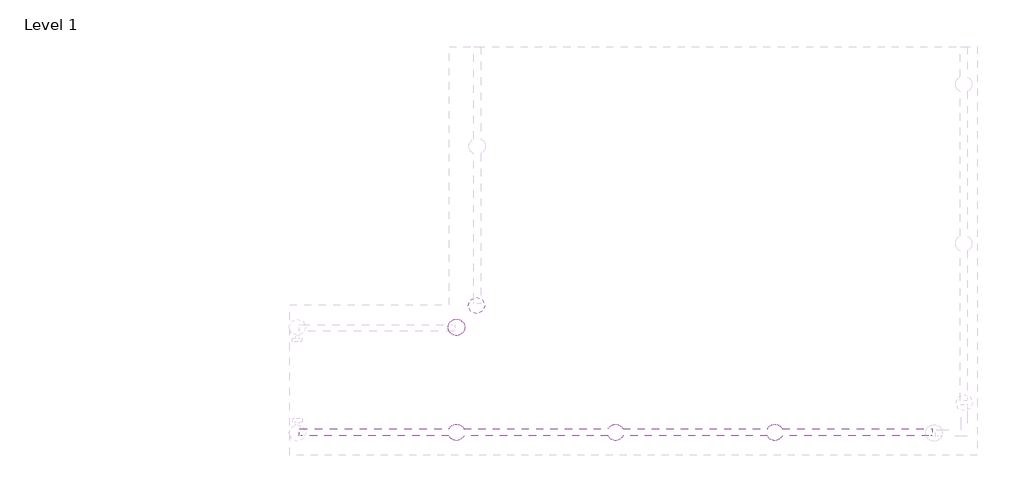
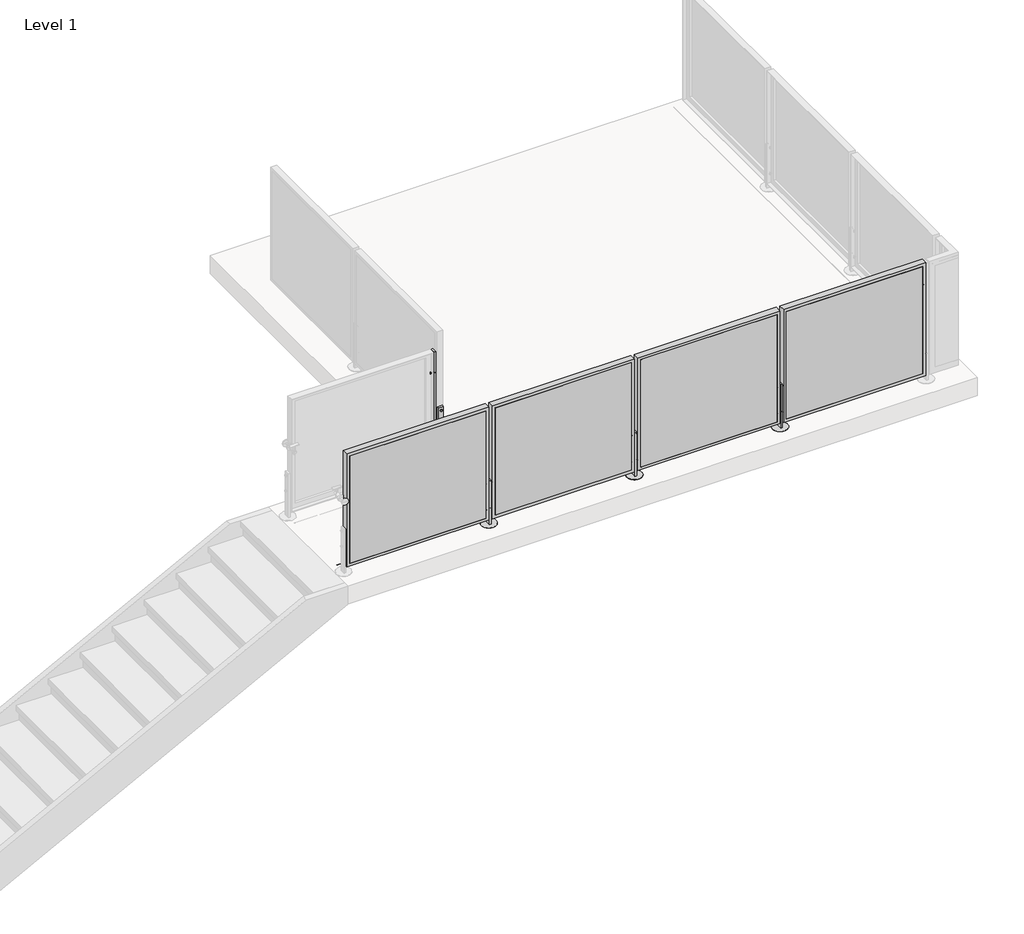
# One storey, part 31 of 37: 2 proxies, 1 railing.
"""IFC4 building model written with IfcOpenShell, lengths in millimetres."""

from ifc_helpers import new_model, si_unit, point, frame, frame_2d, origin, place, context, project, spatial, polyline, circle_curve, trimmed, segment, composite_curve, outline, extrude, faceted_brep, transform, mapped, element, save
from ifc_brep_helpers import plane_surface, cylinder_surface, advanced_brep
from components import baluster_end_post_viva_frame_top_mount_933f940f, baluster_end_post_viva_frame_top_mount_933cdb12

model = new_model("IFC4")

# Units and contexts
model_context = context("Model", 3, world=origin())
ifc_project = project(units=[si_unit("LENGTHUNIT", "METRE", prefix="MILLI")], contexts=[model_context])

# Site, building, storey
site = spatial("IfcSite", under=ifc_project)
building = spatial("IfcBuilding", under=site)
storey = spatial("IfcBuildingStorey", under=building, Name="Level 1", Elevation=0.0)

# Proxies
placement = place(None, origin())
baluster_end_post_viva_frame_top_mount_shape = baluster_end_post_viva_frame_top_mount_933f940f(model_context)
element("IfcBuildingElementProxy", 1, Name="Baluster-End-Post-VIVA-FRAME-Top Mount : CORED INTO CONCRETE_TOP MOUNT FOLD_STRAIGHT", ObjectType="Baluster-End-Post-VIVA-FRAME-Top Mount : CORED INTO CONCRETE_TOP MOUNT FOLD_STRAIGHT", at=placement, inside=storey, context=model_context, shape_type="MappedRepresentation", body=[
    mapped(baluster_end_post_viva_frame_top_mount_shape, transform((-31485.7754694, 9521.3663722, 3047.492), x_axis=(0.0, -1.0, 0.0), y_axis=(1.0, 0.0, 0.0), z_axis=(0.0, 0.0, 1.0))),
])
baluster_end_post_viva_frame_top_mount_2_shape = baluster_end_post_viva_frame_top_mount_933cdb12(model_context)
element("IfcBuildingElementProxy", 2, Name="Baluster-End-Post-VIVA-FRAME-Top Mount : CORED INTO CONCRETE_TOP MOUNT FOLD_STRAIGHT", ObjectType="Baluster-End-Post-VIVA-FRAME-Top Mount : CORED INTO CONCRETE_TOP MOUNT FOLD_STRAIGHT", at=placement, inside=storey, context=model_context, shape_type="MappedRepresentation", body=[
    mapped(baluster_end_post_viva_frame_top_mount_2_shape, transform((-31746.8813244, 9246.7937722, 3047.492), x_axis=(-1.0, 0.0, 0.0), y_axis=(0.0, -1.0, 0.0), z_axis=(0.0, 0.0, 1.0))),
])

# Railing
element("IfcRailing", 3, ObjectType="Metal-Panel-VIVA-FRAME-Top_Core-Straight", at=placement, inside=storey, context=model_context, shape_type="SolidModel", body=[
    extrude(outline(composite_curve([segment(trimmed(circle_curve(frame_2d((8605.5937722, 3047.746)), 0.254), [point((8605.3397722, 3047.746))], [point((8605.8477722, 3047.746))], False, "CARTESIAN"), True, "CONTINUOUS"), segment(trimmed(circle_curve(frame_2d((8605.5937722, 3047.746)), 0.254), [point((8605.8477722, 3047.746))], [point((8605.3397722, 3047.746))], False, "CARTESIAN"), True, "CONTINUOUS")], self_intersect=False)), frame((-33016.8813244, 0.0, 0.0), z_axis=(1.0, 0.0, 0.0), x_axis=(0.0, 1.0, 0.0)), (0.0, 0.0, 1.0), 5080.0),
    extrude(outline(composite_curve([segment(trimmed(circle_curve(frame_2d((8605.5937722, 3047.746)), 0.254), [point((8605.3397722, 3047.746))], [point((8605.8477722, 3047.746))], False, "CARTESIAN"), True, "CONTINUOUS"), segment(trimmed(circle_curve(frame_2d((8605.5937722, 3047.746)), 0.254), [point((8605.8477722, 3047.746))], [point((8605.3397722, 3047.746))], False, "CARTESIAN"), True, "CONTINUOUS")], self_intersect=False)), frame((-33016.8813244, 0.0, 0.0), z_axis=(1.0, 0.0, 0.0), x_axis=(0.0, 1.0, 0.0)), (0.0, 0.0, 1.0), 5080.0),
    extrude(outline(polyline([(-29166.0548675, 8482.7833722), (-29166.0548675, 8485.7833722), (-27977.7077814, 8485.7833722), (-27977.7077814, 8482.7833722), (-29166.0548675, 8482.7833722)])), frame((0.0, 0.0, 3124.1959569), z_axis=(0.0, 0.0, 1.0), x_axis=(1.0, 0.0, 0.0)), (0.0, 0.0, 1.0), 990.5826861),
    faceted_brep([(-29191.4548675, 8482.7833722, 4140.1786431), (-29191.4548675, 8482.7833722, 3098.7959569), (-27952.3077814, 8482.7833722, 3098.7959569), (-27952.3077814, 8482.7833722, 4140.1786431), (-29166.0548675, 8482.7833722, 4114.7786431), (-27977.7077814, 8482.7833722, 4114.7786431), (-27977.7077814, 8482.7833722, 3124.1959569), (-29166.0548675, 8482.7833722, 3124.1959569), (-27977.7077814, 8485.7833722, 3124.1959569), (-29166.0548675, 8485.7833722, 3124.1959569), (-27977.7077814, 8485.7833722, 4114.7786431), (-29166.0548675, 8485.7833722, 4114.7786431), (-29185.4604675, 8536.5833722, 3104.7903569), (-29185.4604675, 8505.7731722, 3104.7903569), (-27958.3021814, 8505.7731722, 3104.7903569), (-27958.3021814, 8536.5833722, 3104.7903569), (-27958.3021814, 8505.7731722, 4134.1842431), (-27958.3021814, 8536.5833722, 4134.1842431), (-29185.4604675, 8536.5833722, 4134.1842431), (-29185.4604675, 8505.7731722, 4134.1842431), (-27952.3077814, 8536.5833722, 3098.7959569), (-29191.4548675, 8536.5833722, 3098.7959569), (-29191.4548675, 8536.5833722, 4140.1786431), (-27952.3077814, 8536.5833722, 4140.1786431), (-29140.6548675, 8485.7833722, 4089.3786431), (-28003.1077814, 8485.7833722, 4089.3786431), (-28003.1077814, 8485.7833722, 3149.5959569), (-29140.6548675, 8485.7833722, 3149.5959569), (-28003.1077814, 8505.7731722, 3149.5959569), (-28003.1077814, 8505.7731722, 4089.3786431), (-29140.6548675, 8505.7731722, 4089.3786431), (-29140.6548675, 8505.7731722, 3149.5959569)], [[[0, 1, 2, 3], [4, 5, 6, 7]], [[7, 6, 8, 9]], [[6, 5, 10, 8]], [[5, 4, 11, 10]], [[4, 7, 9, 11]], [[12, 13, 14, 15]], [[15, 14, 16, 17]], [[13, 12, 18, 19]], [[20, 21, 22, 23], [12, 15, 17, 18]], [[21, 1, 0, 22]], [[21, 20, 2, 1]], [[2, 20, 23, 3]], [[22, 0, 3, 23]], [[11, 9, 8, 10], [24, 25, 26, 27]], [[14, 13, 19, 16], [28, 29, 30, 31]], [[19, 18, 17, 16]], [[25, 24, 30, 29]], [[26, 25, 29, 28]], [[27, 26, 28, 31]], [[24, 27, 31, 30]]]),
    extrude(outline(composite_curve([segment(trimmed(circle_curve(frame_2d((-29206.8813244, 8509.6833722)), 65.8876), [point((-29206.8813244, 8443.7957722))], [point((-29206.8813244, 8575.5709722))], False, "CARTESIAN"), True, "CONTINUOUS"), segment(trimmed(circle_curve(frame_2d((-29206.8813244, 8509.6833722)), 65.8876), [point((-29206.8813244, 8575.5709722))], [point((-29206.8813244, 8443.7957722))], False, "CARTESIAN"), True, "CONTINUOUS")], self_intersect=False)), frame((0.0, 0.0, 3048.0), z_axis=(0.0, 0.0, 1.0), x_axis=(1.0, 0.0, 0.0)), (0.0, 0.0, 1.0), 2.9821299),
    advanced_brep(
    [(-29233.0687244, 8509.6833722, 3178.1496), (-29233.0687244, 8509.6833722, 3197.2504), (-29233.0687244, 8509.6833722, 3187.7), (-29228.2935244, 8509.6833722, 3178.1496), (-29228.2935244, 8509.6833722, 3197.2504), (-29228.2935244, 8509.6833722, 3182.9248), (-29228.2935244, 8509.6833722, 3192.4752), (-29185.4691244, 8509.6833722, 3182.9248), (-29185.4691244, 8509.6833722, 3192.4752), (-29185.4691244, 8509.6833722, 3178.1496), (-29185.4691244, 8509.6833722, 3197.2504), (-29180.6939244, 8509.6833722, 3178.1496), (-29180.6939244, 8509.6833722, 3197.2504), (-29180.6939244, 8509.6833722, 3187.7)],
    [
        (0, 1, circle_curve(frame((-29233.0687244, 8509.6833722, 3187.7), z_axis=(-1.0, 0.0, 0.0), x_axis=(0.0, 0.0, 1.0)), 9.5504)),
        (1, 2),
        (2, 0),
        (1, 0, circle_curve(frame((-29233.0687244, 8509.6833722, 3187.7), z_axis=(-1.0, 0.0, 0.0), x_axis=(0.0, 0.0, 1.0)), 9.5504)),
        (3, 4, circle_curve(frame((-29228.2935244, 8509.6833722, 3187.7), z_axis=(-1.0, 0.0, 0.0), x_axis=(0.0, 0.0, 1.0)), 9.5504)),
        (4, 1),
        (0, 3),
        (4, 3, circle_curve(frame((-29228.2935244, 8509.6833722, 3187.7), z_axis=(-1.0, 0.0, 0.0), x_axis=(0.0, 0.0, 1.0)), 9.5504)),
        (5, 6, circle_curve(frame((-29228.2935244, 8509.6833722, 3187.7), z_axis=(-1.0, 0.0, 0.0), x_axis=(0.0, 0.0, 1.0)), 4.7752)),
        (6, 4),
        (3, 5),
        (6, 5, circle_curve(frame((-29228.2935244, 8509.6833722, 3187.7), z_axis=(-1.0, 0.0, 0.0), x_axis=(0.0, 0.0, 1.0)), 4.7752)),
        (7, 8, circle_curve(frame((-29185.4691244, 8509.6833722, 3187.7), z_axis=(-1.0, 0.0, 0.0), x_axis=(0.0, 0.0, 1.0)), 4.7752)),
        (8, 6),
        (5, 7),
        (8, 7, circle_curve(frame((-29185.4691244, 8509.6833722, 3187.7), z_axis=(-1.0, 0.0, 0.0), x_axis=(0.0, 0.0, 1.0)), 4.7752)),
        (9, 10, circle_curve(frame((-29185.4691244, 8509.6833722, 3187.7), z_axis=(-1.0, 0.0, 0.0), x_axis=(0.0, 0.0, 1.0)), 9.5504)),
        (10, 8),
        (7, 9),
        (10, 9, circle_curve(frame((-29185.4691244, 8509.6833722, 3187.7), z_axis=(-1.0, 0.0, 0.0), x_axis=(0.0, 0.0, 1.0)), 9.5504)),
        (11, 12, circle_curve(frame((-29180.6939244, 8509.6833722, 3187.7), z_axis=(-1.0, 0.0, 0.0), x_axis=(0.0, 0.0, 1.0)), 9.5504)),
        (12, 10),
        (9, 11),
        (12, 11, circle_curve(frame((-29180.6939244, 8509.6833722, 3187.7), z_axis=(-1.0, 0.0, 0.0), x_axis=(0.0, 0.0, 1.0)), 9.5504)),
        (13, 12),
        (11, 13),
    ],
    [
        plane_surface(frame((-29233.0687244, 8509.6833722, 3187.7), z_axis=(-1.0, 0.0, 0.0), x_axis=(0.0, 0.0, 1.0))),
        cylinder_surface(frame((-32624.6490816, 8509.6833722, 3187.7), z_axis=(1.0, 0.0, 0.0), x_axis=(0.0, 0.0, 1.0)), 9.5504),
        plane_surface(frame((-29228.2935244, 8509.6833722, 3187.7), z_axis=(1.0, 0.0, 0.0), x_axis=(0.0, 0.0, 1.0))),
        cylinder_surface(frame((-32624.6490816, 8509.6833722, 3187.7), z_axis=(1.0, 0.0, 0.0), x_axis=(0.0, 0.0, 1.0)), 4.7752),
        plane_surface(frame((-29185.4691244, 8509.6833722, 3187.7), z_axis=(-1.0, 0.0, 0.0), x_axis=(0.0, 0.0, 1.0))),
        plane_surface(frame((-29180.6939244, 8509.6833722, 3187.7), z_axis=(1.0, 0.0, 0.0), x_axis=(0.0, 0.0, 1.0))),
    ],
    [
        (0, [[1, 2, 3]]),
        (0, [[4, -3, -2]]),
        (1, [[5, 6, -1, 7]]),
        (1, [[8, -7, -4, -6]]),
        (2, [[9, 10, -5, 11]]),
        (2, [[12, -11, -8, -10]]),
        (3, [[13, 14, -9, 15]]),
        (3, [[16, -15, -12, -14]]),
        (4, [[17, 18, -13, 19]]),
        (4, [[20, -19, -16, -18]]),
        (1, [[21, 22, -17, 23]]),
        (1, [[24, -23, -20, -22]]),
        (5, [[25, -21, 26]]),
        (5, [[-26, -24, -25]]),
    ],
),
    advanced_brep(
    [(-29233.0687244, 8509.6833722, 3419.4496), (-29233.0687244, 8509.6833722, 3438.5504), (-29233.0687244, 8509.6833722, 3429.0), (-29228.2935244, 8509.6833722, 3419.4496), (-29228.2935244, 8509.6833722, 3438.5504), (-29228.2935244, 8509.6833722, 3424.2248), (-29228.2935244, 8509.6833722, 3433.7752), (-29185.4691244, 8509.6833722, 3424.2248), (-29185.4691244, 8509.6833722, 3433.7752), (-29185.4691244, 8509.6833722, 3419.4496), (-29185.4691244, 8509.6833722, 3438.5504), (-29180.6939244, 8509.6833722, 3419.4496), (-29180.6939244, 8509.6833722, 3438.5504), (-29180.6939244, 8509.6833722, 3429.0)],
    [
        (0, 1, circle_curve(frame((-29233.0687244, 8509.6833722, 3429.0), z_axis=(-1.0, 0.0, 0.0), x_axis=(0.0, 0.0, 1.0)), 9.5504)),
        (1, 2),
        (2, 0),
        (1, 0, circle_curve(frame((-29233.0687244, 8509.6833722, 3429.0), z_axis=(-1.0, 0.0, 0.0), x_axis=(0.0, 0.0, 1.0)), 9.5504)),
        (3, 4, circle_curve(frame((-29228.2935244, 8509.6833722, 3429.0), z_axis=(-1.0, 0.0, 0.0), x_axis=(0.0, 0.0, 1.0)), 9.5504)),
        (4, 1),
        (0, 3),
        (4, 3, circle_curve(frame((-29228.2935244, 8509.6833722, 3429.0), z_axis=(-1.0, 0.0, 0.0), x_axis=(0.0, 0.0, 1.0)), 9.5504)),
        (5, 6, circle_curve(frame((-29228.2935244, 8509.6833722, 3429.0), z_axis=(-1.0, 0.0, 0.0), x_axis=(0.0, 0.0, 1.0)), 4.7752)),
        (6, 4),
        (3, 5),
        (6, 5, circle_curve(frame((-29228.2935244, 8509.6833722, 3429.0), z_axis=(-1.0, 0.0, 0.0), x_axis=(0.0, 0.0, 1.0)), 4.7752)),
        (7, 8, circle_curve(frame((-29185.4691244, 8509.6833722, 3429.0), z_axis=(-1.0, 0.0, 0.0), x_axis=(0.0, 0.0, 1.0)), 4.7752)),
        (8, 6),
        (5, 7),
        (8, 7, circle_curve(frame((-29185.4691244, 8509.6833722, 3429.0), z_axis=(-1.0, 0.0, 0.0), x_axis=(0.0, 0.0, 1.0)), 4.7752)),
        (9, 10, circle_curve(frame((-29185.4691244, 8509.6833722, 3429.0), z_axis=(-1.0, 0.0, 0.0), x_axis=(0.0, 0.0, 1.0)), 9.5504)),
        (10, 8),
        (7, 9),
        (10, 9, circle_curve(frame((-29185.4691244, 8509.6833722, 3429.0), z_axis=(-1.0, 0.0, 0.0), x_axis=(0.0, 0.0, 1.0)), 9.5504)),
        (11, 12, circle_curve(frame((-29180.6939244, 8509.6833722, 3429.0), z_axis=(-1.0, 0.0, 0.0), x_axis=(0.0, 0.0, 1.0)), 9.5504)),
        (12, 10),
        (9, 11),
        (12, 11, circle_curve(frame((-29180.6939244, 8509.6833722, 3429.0), z_axis=(-1.0, 0.0, 0.0), x_axis=(0.0, 0.0, 1.0)), 9.5504)),
        (13, 12),
        (11, 13),
    ],
    [
        plane_surface(frame((-29233.0687244, 8509.6833722, 3429.0), z_axis=(-1.0, 0.0, 0.0), x_axis=(0.0, 0.0, 1.0))),
        cylinder_surface(frame((-32624.6490816, 8509.6833722, 3429.0), z_axis=(1.0, 0.0, 0.0), x_axis=(0.0, 0.0, 1.0)), 9.5504),
        plane_surface(frame((-29228.2935244, 8509.6833722, 3429.0), z_axis=(1.0, 0.0, 0.0), x_axis=(0.0, 0.0, 1.0))),
        cylinder_surface(frame((-32624.6490816, 8509.6833722, 3429.0), z_axis=(1.0, 0.0, 0.0), x_axis=(0.0, 0.0, 1.0)), 4.7752),
        plane_surface(frame((-29185.4691244, 8509.6833722, 3429.0), z_axis=(-1.0, 0.0, 0.0), x_axis=(0.0, 0.0, 1.0))),
        plane_surface(frame((-29180.6939244, 8509.6833722, 3429.0), z_axis=(1.0, 0.0, 0.0), x_axis=(0.0, 0.0, 1.0))),
    ],
    [
        (0, [[1, 2, 3]]),
        (0, [[4, -3, -2]]),
        (1, [[5, 6, -1, 7]]),
        (1, [[8, -7, -4, -6]]),
        (2, [[9, 10, -5, 11]]),
        (2, [[12, -11, -8, -10]]),
        (3, [[13, 14, -9, 15]]),
        (3, [[16, -15, -12, -14]]),
        (4, [[17, 18, -13, 19]]),
        (4, [[20, -19, -16, -18]]),
        (1, [[21, 22, -17, 23]]),
        (1, [[24, -23, -20, -22]]),
        (5, [[25, -21, 26]]),
        (5, [[-26, -24, -25]]),
    ],
),
    extrude(outline(polyline([(-29214.8209161, 8531.9083722), (-29198.9417328, 8531.9083722), (-29198.9417328, 8487.4583722), (-29214.8209161, 8487.4583722), (-29214.8209161, 8531.9083722)])), frame((0.0, 0.0, 2946.4), z_axis=(0.0, 0.0, 1.0), x_axis=(1.0, 0.0, 0.0)), (0.0, 0.0, 1.0), 508.0),
    extrude(outline(polyline([(-30436.0548675, 8482.7833722), (-30436.0548675, 8485.7833722), (-29247.7077814, 8485.7833722), (-29247.7077814, 8482.7833722), (-30436.0548675, 8482.7833722)])), frame((0.0, 0.0, 3124.1959569), z_axis=(0.0, 0.0, 1.0), x_axis=(1.0, 0.0, 0.0)), (0.0, 0.0, 1.0), 990.5826861),
    faceted_brep([(-30461.4548675, 8482.7833722, 4140.1786431), (-30461.4548675, 8482.7833722, 3098.7959569), (-29222.3077814, 8482.7833722, 3098.7959569), (-29222.3077814, 8482.7833722, 4140.1786431), (-30436.0548675, 8482.7833722, 4114.7786431), (-29247.7077814, 8482.7833722, 4114.7786431), (-29247.7077814, 8482.7833722, 3124.1959569), (-30436.0548675, 8482.7833722, 3124.1959569), (-29247.7077814, 8485.7833722, 3124.1959569), (-30436.0548675, 8485.7833722, 3124.1959569), (-29247.7077814, 8485.7833722, 4114.7786431), (-30436.0548675, 8485.7833722, 4114.7786431), (-30455.4604675, 8536.5833722, 3104.7903569), (-30455.4604675, 8505.7731722, 3104.7903569), (-29228.3021814, 8505.7731722, 3104.7903569), (-29228.3021814, 8536.5833722, 3104.7903569), (-29228.3021814, 8505.7731722, 4134.1842431), (-29228.3021814, 8536.5833722, 4134.1842431), (-30455.4604675, 8536.5833722, 4134.1842431), (-30455.4604675, 8505.7731722, 4134.1842431), (-29222.3077814, 8536.5833722, 3098.7959569), (-30461.4548675, 8536.5833722, 3098.7959569), (-30461.4548675, 8536.5833722, 4140.1786431), (-29222.3077814, 8536.5833722, 4140.1786431), (-30410.6548675, 8485.7833722, 4089.3786431), (-29273.1077814, 8485.7833722, 4089.3786431), (-29273.1077814, 8485.7833722, 3149.5959569), (-30410.6548675, 8485.7833722, 3149.5959569), (-29273.1077814, 8505.7731722, 3149.5959569), (-29273.1077814, 8505.7731722, 4089.3786431), (-30410.6548675, 8505.7731722, 4089.3786431), (-30410.6548675, 8505.7731722, 3149.5959569)], [[[0, 1, 2, 3], [4, 5, 6, 7]], [[7, 6, 8, 9]], [[6, 5, 10, 8]], [[5, 4, 11, 10]], [[4, 7, 9, 11]], [[12, 13, 14, 15]], [[15, 14, 16, 17]], [[13, 12, 18, 19]], [[20, 21, 22, 23], [12, 15, 17, 18]], [[21, 1, 0, 22]], [[21, 20, 2, 1]], [[2, 20, 23, 3]], [[22, 0, 3, 23]], [[11, 9, 8, 10], [24, 25, 26, 27]], [[14, 13, 19, 16], [28, 29, 30, 31]], [[19, 18, 17, 16]], [[25, 24, 30, 29]], [[26, 25, 29, 28]], [[27, 26, 28, 31]], [[24, 27, 31, 30]]]),
    extrude(outline(composite_curve([segment(trimmed(circle_curve(frame_2d((-30476.8813244, 8509.6833722)), 65.8876), [point((-30476.8813244, 8443.7957722))], [point((-30476.8813244, 8575.5709722))], False, "CARTESIAN"), True, "CONTINUOUS"), segment(trimmed(circle_curve(frame_2d((-30476.8813244, 8509.6833722)), 65.8876), [point((-30476.8813244, 8575.5709722))], [point((-30476.8813244, 8443.7957722))], False, "CARTESIAN"), True, "CONTINUOUS")], self_intersect=False)), frame((0.0, 0.0, 3048.0), z_axis=(0.0, 0.0, 1.0), x_axis=(1.0, 0.0, 0.0)), (0.0, 0.0, 1.0), 2.9821299),
    advanced_brep(
    [(-30503.0687244, 8509.6833722, 3178.1496), (-30503.0687244, 8509.6833722, 3197.2504), (-30503.0687244, 8509.6833722, 3187.7), (-30498.2935244, 8509.6833722, 3178.1496), (-30498.2935244, 8509.6833722, 3197.2504), (-30498.2935244, 8509.6833722, 3182.9248), (-30498.2935244, 8509.6833722, 3192.4752), (-30455.4691244, 8509.6833722, 3182.9248), (-30455.4691244, 8509.6833722, 3192.4752), (-30455.4691244, 8509.6833722, 3178.1496), (-30455.4691244, 8509.6833722, 3197.2504), (-30450.6939244, 8509.6833722, 3178.1496), (-30450.6939244, 8509.6833722, 3197.2504), (-30450.6939244, 8509.6833722, 3187.7)],
    [
        (0, 1, circle_curve(frame((-30503.0687244, 8509.6833722, 3187.7), z_axis=(-1.0, 0.0, 0.0), x_axis=(0.0, 0.0, 1.0)), 9.5504)),
        (1, 2),
        (2, 0),
        (1, 0, circle_curve(frame((-30503.0687244, 8509.6833722, 3187.7), z_axis=(-1.0, 0.0, 0.0), x_axis=(0.0, 0.0, 1.0)), 9.5504)),
        (3, 4, circle_curve(frame((-30498.2935244, 8509.6833722, 3187.7), z_axis=(-1.0, 0.0, 0.0), x_axis=(0.0, 0.0, 1.0)), 9.5504)),
        (4, 1),
        (0, 3),
        (4, 3, circle_curve(frame((-30498.2935244, 8509.6833722, 3187.7), z_axis=(-1.0, 0.0, 0.0), x_axis=(0.0, 0.0, 1.0)), 9.5504)),
        (5, 6, circle_curve(frame((-30498.2935244, 8509.6833722, 3187.7), z_axis=(-1.0, 0.0, 0.0), x_axis=(0.0, 0.0, 1.0)), 4.7752)),
        (6, 4),
        (3, 5),
        (6, 5, circle_curve(frame((-30498.2935244, 8509.6833722, 3187.7), z_axis=(-1.0, 0.0, 0.0), x_axis=(0.0, 0.0, 1.0)), 4.7752)),
        (7, 8, circle_curve(frame((-30455.4691244, 8509.6833722, 3187.7), z_axis=(-1.0, 0.0, 0.0), x_axis=(0.0, 0.0, 1.0)), 4.7752)),
        (8, 6),
        (5, 7),
        (8, 7, circle_curve(frame((-30455.4691244, 8509.6833722, 3187.7), z_axis=(-1.0, 0.0, 0.0), x_axis=(0.0, 0.0, 1.0)), 4.7752)),
        (9, 10, circle_curve(frame((-30455.4691244, 8509.6833722, 3187.7), z_axis=(-1.0, 0.0, 0.0), x_axis=(0.0, 0.0, 1.0)), 9.5504)),
        (10, 8),
        (7, 9),
        (10, 9, circle_curve(frame((-30455.4691244, 8509.6833722, 3187.7), z_axis=(-1.0, 0.0, 0.0), x_axis=(0.0, 0.0, 1.0)), 9.5504)),
        (11, 12, circle_curve(frame((-30450.6939244, 8509.6833722, 3187.7), z_axis=(-1.0, 0.0, 0.0), x_axis=(0.0, 0.0, 1.0)), 9.5504)),
        (12, 10),
        (9, 11),
        (12, 11, circle_curve(frame((-30450.6939244, 8509.6833722, 3187.7), z_axis=(-1.0, 0.0, 0.0), x_axis=(0.0, 0.0, 1.0)), 9.5504)),
        (13, 12),
        (11, 13),
    ],
    [
        plane_surface(frame((-30503.0687244, 8509.6833722, 3187.7), z_axis=(-1.0, 0.0, 0.0), x_axis=(0.0, 0.0, 1.0))),
        cylinder_surface(frame((-33894.6490816, 8509.6833722, 3187.7), z_axis=(1.0, 0.0, 0.0), x_axis=(0.0, 0.0, 1.0)), 9.5504),
        plane_surface(frame((-30498.2935244, 8509.6833722, 3187.7), z_axis=(1.0, 0.0, 0.0), x_axis=(0.0, 0.0, 1.0))),
        cylinder_surface(frame((-33894.6490816, 8509.6833722, 3187.7), z_axis=(1.0, 0.0, 0.0), x_axis=(0.0, 0.0, 1.0)), 4.7752),
        plane_surface(frame((-30455.4691244, 8509.6833722, 3187.7), z_axis=(-1.0, 0.0, 0.0), x_axis=(0.0, 0.0, 1.0))),
        plane_surface(frame((-30450.6939244, 8509.6833722, 3187.7), z_axis=(1.0, 0.0, 0.0), x_axis=(0.0, 0.0, 1.0))),
    ],
    [
        (0, [[1, 2, 3]]),
        (0, [[4, -3, -2]]),
        (1, [[5, 6, -1, 7]]),
        (1, [[8, -7, -4, -6]]),
        (2, [[9, 10, -5, 11]]),
        (2, [[12, -11, -8, -10]]),
        (3, [[13, 14, -9, 15]]),
        (3, [[16, -15, -12, -14]]),
        (4, [[17, 18, -13, 19]]),
        (4, [[20, -19, -16, -18]]),
        (1, [[21, 22, -17, 23]]),
        (1, [[24, -23, -20, -22]]),
        (5, [[25, -21, 26]]),
        (5, [[-26, -24, -25]]),
    ],
),
    advanced_brep(
    [(-30503.0687244, 8509.6833722, 3419.4496), (-30503.0687244, 8509.6833722, 3438.5504), (-30503.0687244, 8509.6833722, 3429.0), (-30498.2935244, 8509.6833722, 3419.4496), (-30498.2935244, 8509.6833722, 3438.5504), (-30498.2935244, 8509.6833722, 3424.2248), (-30498.2935244, 8509.6833722, 3433.7752), (-30455.4691244, 8509.6833722, 3424.2248), (-30455.4691244, 8509.6833722, 3433.7752), (-30455.4691244, 8509.6833722, 3419.4496), (-30455.4691244, 8509.6833722, 3438.5504), (-30450.6939244, 8509.6833722, 3419.4496), (-30450.6939244, 8509.6833722, 3438.5504), (-30450.6939244, 8509.6833722, 3429.0)],
    [
        (0, 1, circle_curve(frame((-30503.0687244, 8509.6833722, 3429.0), z_axis=(-1.0, 0.0, 0.0), x_axis=(0.0, 0.0, 1.0)), 9.5504)),
        (1, 2),
        (2, 0),
        (1, 0, circle_curve(frame((-30503.0687244, 8509.6833722, 3429.0), z_axis=(-1.0, 0.0, 0.0), x_axis=(0.0, 0.0, 1.0)), 9.5504)),
        (3, 4, circle_curve(frame((-30498.2935244, 8509.6833722, 3429.0), z_axis=(-1.0, 0.0, 0.0), x_axis=(0.0, 0.0, 1.0)), 9.5504)),
        (4, 1),
        (0, 3),
        (4, 3, circle_curve(frame((-30498.2935244, 8509.6833722, 3429.0), z_axis=(-1.0, 0.0, 0.0), x_axis=(0.0, 0.0, 1.0)), 9.5504)),
        (5, 6, circle_curve(frame((-30498.2935244, 8509.6833722, 3429.0), z_axis=(-1.0, 0.0, 0.0), x_axis=(0.0, 0.0, 1.0)), 4.7752)),
        (6, 4),
        (3, 5),
        (6, 5, circle_curve(frame((-30498.2935244, 8509.6833722, 3429.0), z_axis=(-1.0, 0.0, 0.0), x_axis=(0.0, 0.0, 1.0)), 4.7752)),
        (7, 8, circle_curve(frame((-30455.4691244, 8509.6833722, 3429.0), z_axis=(-1.0, 0.0, 0.0), x_axis=(0.0, 0.0, 1.0)), 4.7752)),
        (8, 6),
        (5, 7),
        (8, 7, circle_curve(frame((-30455.4691244, 8509.6833722, 3429.0), z_axis=(-1.0, 0.0, 0.0), x_axis=(0.0, 0.0, 1.0)), 4.7752)),
        (9, 10, circle_curve(frame((-30455.4691244, 8509.6833722, 3429.0), z_axis=(-1.0, 0.0, 0.0), x_axis=(0.0, 0.0, 1.0)), 9.5504)),
        (10, 8),
        (7, 9),
        (10, 9, circle_curve(frame((-30455.4691244, 8509.6833722, 3429.0), z_axis=(-1.0, 0.0, 0.0), x_axis=(0.0, 0.0, 1.0)), 9.5504)),
        (11, 12, circle_curve(frame((-30450.6939244, 8509.6833722, 3429.0), z_axis=(-1.0, 0.0, 0.0), x_axis=(0.0, 0.0, 1.0)), 9.5504)),
        (12, 10),
        (9, 11),
        (12, 11, circle_curve(frame((-30450.6939244, 8509.6833722, 3429.0), z_axis=(-1.0, 0.0, 0.0), x_axis=(0.0, 0.0, 1.0)), 9.5504)),
        (13, 12),
        (11, 13),
    ],
    [
        plane_surface(frame((-30503.0687244, 8509.6833722, 3429.0), z_axis=(-1.0, 0.0, 0.0), x_axis=(0.0, 0.0, 1.0))),
        cylinder_surface(frame((-33894.6490816, 8509.6833722, 3429.0), z_axis=(1.0, 0.0, 0.0), x_axis=(0.0, 0.0, 1.0)), 9.5504),
        plane_surface(frame((-30498.2935244, 8509.6833722, 3429.0), z_axis=(1.0, 0.0, 0.0), x_axis=(0.0, 0.0, 1.0))),
        cylinder_surface(frame((-33894.6490816, 8509.6833722, 3429.0), z_axis=(1.0, 0.0, 0.0), x_axis=(0.0, 0.0, 1.0)), 4.7752),
        plane_surface(frame((-30455.4691244, 8509.6833722, 3429.0), z_axis=(-1.0, 0.0, 0.0), x_axis=(0.0, 0.0, 1.0))),
        plane_surface(frame((-30450.6939244, 8509.6833722, 3429.0), z_axis=(1.0, 0.0, 0.0), x_axis=(0.0, 0.0, 1.0))),
    ],
    [
        (0, [[1, 2, 3]]),
        (0, [[4, -3, -2]]),
        (1, [[5, 6, -1, 7]]),
        (1, [[8, -7, -4, -6]]),
        (2, [[9, 10, -5, 11]]),
        (2, [[12, -11, -8, -10]]),
        (3, [[13, 14, -9, 15]]),
        (3, [[16, -15, -12, -14]]),
        (4, [[17, 18, -13, 19]]),
        (4, [[20, -19, -16, -18]]),
        (1, [[21, 22, -17, 23]]),
        (1, [[24, -23, -20, -22]]),
        (5, [[25, -21, 26]]),
        (5, [[-26, -24, -25]]),
    ],
),
    extrude(outline(polyline([(-30484.8209161, 8531.9083722), (-30468.9417328, 8531.9083722), (-30468.9417328, 8487.4583722), (-30484.8209161, 8487.4583722), (-30484.8209161, 8531.9083722)])), frame((0.0, 0.0, 2946.4), z_axis=(0.0, 0.0, 1.0), x_axis=(1.0, 0.0, 0.0)), (0.0, 0.0, 1.0), 508.0),
    extrude(outline(polyline([(-31706.0548675, 8482.7833722), (-31706.0548675, 8485.7833722), (-30517.7077814, 8485.7833722), (-30517.7077814, 8482.7833722), (-31706.0548675, 8482.7833722)])), frame((0.0, 0.0, 3124.1959569), z_axis=(0.0, 0.0, 1.0), x_axis=(1.0, 0.0, 0.0)), (0.0, 0.0, 1.0), 990.5826861),
    faceted_brep([(-31731.4548675, 8482.7833722, 4140.1786431), (-31731.4548675, 8482.7833722, 3098.7959569), (-30492.3077814, 8482.7833722, 3098.7959569), (-30492.3077814, 8482.7833722, 4140.1786431), (-31706.0548675, 8482.7833722, 4114.7786431), (-30517.7077814, 8482.7833722, 4114.7786431), (-30517.7077814, 8482.7833722, 3124.1959569), (-31706.0548675, 8482.7833722, 3124.1959569), (-30517.7077814, 8485.7833722, 3124.1959569), (-31706.0548675, 8485.7833722, 3124.1959569), (-30517.7077814, 8485.7833722, 4114.7786431), (-31706.0548675, 8485.7833722, 4114.7786431), (-31725.4604675, 8536.5833722, 3104.7903569), (-31725.4604675, 8505.7731722, 3104.7903569), (-30498.3021814, 8505.7731722, 3104.7903569), (-30498.3021814, 8536.5833722, 3104.7903569), (-30498.3021814, 8505.7731722, 4134.1842431), (-30498.3021814, 8536.5833722, 4134.1842431), (-31725.4604675, 8536.5833722, 4134.1842431), (-31725.4604675, 8505.7731722, 4134.1842431), (-30492.3077814, 8536.5833722, 3098.7959569), (-31731.4548675, 8536.5833722, 3098.7959569), (-31731.4548675, 8536.5833722, 4140.1786431), (-30492.3077814, 8536.5833722, 4140.1786431), (-31680.6548675, 8485.7833722, 4089.3786431), (-30543.1077814, 8485.7833722, 4089.3786431), (-30543.1077814, 8485.7833722, 3149.5959569), (-31680.6548675, 8485.7833722, 3149.5959569), (-30543.1077814, 8505.7731722, 3149.5959569), (-30543.1077814, 8505.7731722, 4089.3786431), (-31680.6548675, 8505.7731722, 4089.3786431), (-31680.6548675, 8505.7731722, 3149.5959569)], [[[0, 1, 2, 3], [4, 5, 6, 7]], [[7, 6, 8, 9]], [[6, 5, 10, 8]], [[5, 4, 11, 10]], [[4, 7, 9, 11]], [[12, 13, 14, 15]], [[15, 14, 16, 17]], [[13, 12, 18, 19]], [[20, 21, 22, 23], [12, 15, 17, 18]], [[21, 1, 0, 22]], [[21, 20, 2, 1]], [[2, 20, 23, 3]], [[22, 0, 3, 23]], [[11, 9, 8, 10], [24, 25, 26, 27]], [[14, 13, 19, 16], [28, 29, 30, 31]], [[19, 18, 17, 16]], [[25, 24, 30, 29]], [[26, 25, 29, 28]], [[27, 26, 28, 31]], [[24, 27, 31, 30]]]),
    extrude(outline(composite_curve([segment(trimmed(circle_curve(frame_2d((-31746.8813244, 8509.6833722)), 65.8876), [point((-31746.8813244, 8443.7957722))], [point((-31746.8813244, 8575.5709722))], False, "CARTESIAN"), True, "CONTINUOUS"), segment(trimmed(circle_curve(frame_2d((-31746.8813244, 8509.6833722)), 65.8876), [point((-31746.8813244, 8575.5709722))], [point((-31746.8813244, 8443.7957722))], False, "CARTESIAN"), True, "CONTINUOUS")], self_intersect=False)), frame((0.0, 0.0, 3048.0), z_axis=(0.0, 0.0, 1.0), x_axis=(1.0, 0.0, 0.0)), (0.0, 0.0, 1.0), 2.9821299),
    advanced_brep(
    [(-31773.0687244, 8509.6833722, 3178.1496), (-31773.0687244, 8509.6833722, 3197.2504), (-31773.0687244, 8509.6833722, 3187.7), (-31768.2935244, 8509.6833722, 3178.1496), (-31768.2935244, 8509.6833722, 3197.2504), (-31768.2935244, 8509.6833722, 3182.9248), (-31768.2935244, 8509.6833722, 3192.4752), (-31725.4691244, 8509.6833722, 3182.9248), (-31725.4691244, 8509.6833722, 3192.4752), (-31725.4691244, 8509.6833722, 3178.1496), (-31725.4691244, 8509.6833722, 3197.2504), (-31720.6939244, 8509.6833722, 3178.1496), (-31720.6939244, 8509.6833722, 3197.2504), (-31720.6939244, 8509.6833722, 3187.7)],
    [
        (0, 1, circle_curve(frame((-31773.0687244, 8509.6833722, 3187.7), z_axis=(-1.0, 0.0, 0.0), x_axis=(0.0, 0.0, 1.0)), 9.5504)),
        (1, 2),
        (2, 0),
        (1, 0, circle_curve(frame((-31773.0687244, 8509.6833722, 3187.7), z_axis=(-1.0, 0.0, 0.0), x_axis=(0.0, 0.0, 1.0)), 9.5504)),
        (3, 4, circle_curve(frame((-31768.2935244, 8509.6833722, 3187.7), z_axis=(-1.0, 0.0, 0.0), x_axis=(0.0, 0.0, 1.0)), 9.5504)),
        (4, 1),
        (0, 3),
        (4, 3, circle_curve(frame((-31768.2935244, 8509.6833722, 3187.7), z_axis=(-1.0, 0.0, 0.0), x_axis=(0.0, 0.0, 1.0)), 9.5504)),
        (5, 6, circle_curve(frame((-31768.2935244, 8509.6833722, 3187.7), z_axis=(-1.0, 0.0, 0.0), x_axis=(0.0, 0.0, 1.0)), 4.7752)),
        (6, 4),
        (3, 5),
        (6, 5, circle_curve(frame((-31768.2935244, 8509.6833722, 3187.7), z_axis=(-1.0, 0.0, 0.0), x_axis=(0.0, 0.0, 1.0)), 4.7752)),
        (7, 8, circle_curve(frame((-31725.4691244, 8509.6833722, 3187.7), z_axis=(-1.0, 0.0, 0.0), x_axis=(0.0, 0.0, 1.0)), 4.7752)),
        (8, 6),
        (5, 7),
        (8, 7, circle_curve(frame((-31725.4691244, 8509.6833722, 3187.7), z_axis=(-1.0, 0.0, 0.0), x_axis=(0.0, 0.0, 1.0)), 4.7752)),
        (9, 10, circle_curve(frame((-31725.4691244, 8509.6833722, 3187.7), z_axis=(-1.0, 0.0, 0.0), x_axis=(0.0, 0.0, 1.0)), 9.5504)),
        (10, 8),
        (7, 9),
        (10, 9, circle_curve(frame((-31725.4691244, 8509.6833722, 3187.7), z_axis=(-1.0, 0.0, 0.0), x_axis=(0.0, 0.0, 1.0)), 9.5504)),
        (11, 12, circle_curve(frame((-31720.6939244, 8509.6833722, 3187.7), z_axis=(-1.0, 0.0, 0.0), x_axis=(0.0, 0.0, 1.0)), 9.5504)),
        (12, 10),
        (9, 11),
        (12, 11, circle_curve(frame((-31720.6939244, 8509.6833722, 3187.7), z_axis=(-1.0, 0.0, 0.0), x_axis=(0.0, 0.0, 1.0)), 9.5504)),
        (13, 12),
        (11, 13),
    ],
    [
        plane_surface(frame((-31773.0687244, 8509.6833722, 3187.7), z_axis=(-1.0, 0.0, 0.0), x_axis=(0.0, 0.0, 1.0))),
        cylinder_surface(frame((-35164.6490816, 8509.6833722, 3187.7), z_axis=(1.0, 0.0, 0.0), x_axis=(0.0, 0.0, 1.0)), 9.5504),
        plane_surface(frame((-31768.2935244, 8509.6833722, 3187.7), z_axis=(1.0, 0.0, 0.0), x_axis=(0.0, 0.0, 1.0))),
        cylinder_surface(frame((-35164.6490816, 8509.6833722, 3187.7), z_axis=(1.0, 0.0, 0.0), x_axis=(0.0, 0.0, 1.0)), 4.7752),
        plane_surface(frame((-31725.4691244, 8509.6833722, 3187.7), z_axis=(-1.0, 0.0, 0.0), x_axis=(0.0, 0.0, 1.0))),
        plane_surface(frame((-31720.6939244, 8509.6833722, 3187.7), z_axis=(1.0, 0.0, 0.0), x_axis=(0.0, 0.0, 1.0))),
    ],
    [
        (0, [[1, 2, 3]]),
        (0, [[4, -3, -2]]),
        (1, [[5, 6, -1, 7]]),
        (1, [[8, -7, -4, -6]]),
        (2, [[9, 10, -5, 11]]),
        (2, [[12, -11, -8, -10]]),
        (3, [[13, 14, -9, 15]]),
        (3, [[16, -15, -12, -14]]),
        (4, [[17, 18, -13, 19]]),
        (4, [[20, -19, -16, -18]]),
        (1, [[21, 22, -17, 23]]),
        (1, [[24, -23, -20, -22]]),
        (5, [[25, -21, 26]]),
        (5, [[-26, -24, -25]]),
    ],
),
    advanced_brep(
    [(-31773.0687244, 8509.6833722, 3419.4496), (-31773.0687244, 8509.6833722, 3438.5504), (-31773.0687244, 8509.6833722, 3429.0), (-31768.2935244, 8509.6833722, 3419.4496), (-31768.2935244, 8509.6833722, 3438.5504), (-31768.2935244, 8509.6833722, 3424.2248), (-31768.2935244, 8509.6833722, 3433.7752), (-31725.4691244, 8509.6833722, 3424.2248), (-31725.4691244, 8509.6833722, 3433.7752), (-31725.4691244, 8509.6833722, 3419.4496), (-31725.4691244, 8509.6833722, 3438.5504), (-31720.6939244, 8509.6833722, 3419.4496), (-31720.6939244, 8509.6833722, 3438.5504), (-31720.6939244, 8509.6833722, 3429.0)],
    [
        (0, 1, circle_curve(frame((-31773.0687244, 8509.6833722, 3429.0), z_axis=(-1.0, 0.0, 0.0), x_axis=(0.0, 0.0, 1.0)), 9.5504)),
        (1, 2),
        (2, 0),
        (1, 0, circle_curve(frame((-31773.0687244, 8509.6833722, 3429.0), z_axis=(-1.0, 0.0, 0.0), x_axis=(0.0, 0.0, 1.0)), 9.5504)),
        (3, 4, circle_curve(frame((-31768.2935244, 8509.6833722, 3429.0), z_axis=(-1.0, 0.0, 0.0), x_axis=(0.0, 0.0, 1.0)), 9.5504)),
        (4, 1),
        (0, 3),
        (4, 3, circle_curve(frame((-31768.2935244, 8509.6833722, 3429.0), z_axis=(-1.0, 0.0, 0.0), x_axis=(0.0, 0.0, 1.0)), 9.5504)),
        (5, 6, circle_curve(frame((-31768.2935244, 8509.6833722, 3429.0), z_axis=(-1.0, 0.0, 0.0), x_axis=(0.0, 0.0, 1.0)), 4.7752)),
        (6, 4),
        (3, 5),
        (6, 5, circle_curve(frame((-31768.2935244, 8509.6833722, 3429.0), z_axis=(-1.0, 0.0, 0.0), x_axis=(0.0, 0.0, 1.0)), 4.7752)),
        (7, 8, circle_curve(frame((-31725.4691244, 8509.6833722, 3429.0), z_axis=(-1.0, 0.0, 0.0), x_axis=(0.0, 0.0, 1.0)), 4.7752)),
        (8, 6),
        (5, 7),
        (8, 7, circle_curve(frame((-31725.4691244, 8509.6833722, 3429.0), z_axis=(-1.0, 0.0, 0.0), x_axis=(0.0, 0.0, 1.0)), 4.7752)),
        (9, 10, circle_curve(frame((-31725.4691244, 8509.6833722, 3429.0), z_axis=(-1.0, 0.0, 0.0), x_axis=(0.0, 0.0, 1.0)), 9.5504)),
        (10, 8),
        (7, 9),
        (10, 9, circle_curve(frame((-31725.4691244, 8509.6833722, 3429.0), z_axis=(-1.0, 0.0, 0.0), x_axis=(0.0, 0.0, 1.0)), 9.5504)),
        (11, 12, circle_curve(frame((-31720.6939244, 8509.6833722, 3429.0), z_axis=(-1.0, 0.0, 0.0), x_axis=(0.0, 0.0, 1.0)), 9.5504)),
        (12, 10),
        (9, 11),
        (12, 11, circle_curve(frame((-31720.6939244, 8509.6833722, 3429.0), z_axis=(-1.0, 0.0, 0.0), x_axis=(0.0, 0.0, 1.0)), 9.5504)),
        (13, 12),
        (11, 13),
    ],
    [
        plane_surface(frame((-31773.0687244, 8509.6833722, 3429.0), z_axis=(-1.0, 0.0, 0.0), x_axis=(0.0, 0.0, 1.0))),
        cylinder_surface(frame((-35164.6490816, 8509.6833722, 3429.0), z_axis=(1.0, 0.0, 0.0), x_axis=(0.0, 0.0, 1.0)), 9.5504),
        plane_surface(frame((-31768.2935244, 8509.6833722, 3429.0), z_axis=(1.0, 0.0, 0.0), x_axis=(0.0, 0.0, 1.0))),
        cylinder_surface(frame((-35164.6490816, 8509.6833722, 3429.0), z_axis=(1.0, 0.0, 0.0), x_axis=(0.0, 0.0, 1.0)), 4.7752),
        plane_surface(frame((-31725.4691244, 8509.6833722, 3429.0), z_axis=(-1.0, 0.0, 0.0), x_axis=(0.0, 0.0, 1.0))),
        plane_surface(frame((-31720.6939244, 8509.6833722, 3429.0), z_axis=(1.0, 0.0, 0.0), x_axis=(0.0, 0.0, 1.0))),
    ],
    [
        (0, [[1, 2, 3]]),
        (0, [[4, -3, -2]]),
        (1, [[5, 6, -1, 7]]),
        (1, [[8, -7, -4, -6]]),
        (2, [[9, 10, -5, 11]]),
        (2, [[12, -11, -8, -10]]),
        (3, [[13, 14, -9, 15]]),
        (3, [[16, -15, -12, -14]]),
        (4, [[17, 18, -13, 19]]),
        (4, [[20, -19, -16, -18]]),
        (1, [[21, 22, -17, 23]]),
        (1, [[24, -23, -20, -22]]),
        (5, [[25, -21, 26]]),
        (5, [[-26, -24, -25]]),
    ],
),
    extrude(outline(polyline([(-31754.8209161, 8531.9083722), (-31738.9417328, 8531.9083722), (-31738.9417328, 8487.4583722), (-31754.8209161, 8487.4583722), (-31754.8209161, 8531.9083722)])), frame((0.0, 0.0, 2946.4), z_axis=(0.0, 0.0, 1.0), x_axis=(1.0, 0.0, 0.0)), (0.0, 0.0, 1.0), 508.0),
    extrude(outline(polyline([(-32976.0548675, 8482.7833722), (-32976.0548675, 8485.7833722), (-31787.7077814, 8485.7833722), (-31787.7077814, 8482.7833722), (-32976.0548675, 8482.7833722)])), frame((0.0, 0.0, 3124.1959569), z_axis=(0.0, 0.0, 1.0), x_axis=(1.0, 0.0, 0.0)), (0.0, 0.0, 1.0), 990.5826861),
    faceted_brep([(-33001.4548675, 8482.7833722, 4140.1786431), (-33001.4548675, 8482.7833722, 3098.7959569), (-31762.3077814, 8482.7833722, 3098.7959569), (-31762.3077814, 8482.7833722, 4140.1786431), (-32976.0548675, 8482.7833722, 4114.7786431), (-31787.7077814, 8482.7833722, 4114.7786431), (-31787.7077814, 8482.7833722, 3124.1959569), (-32976.0548675, 8482.7833722, 3124.1959569), (-31787.7077814, 8485.7833722, 3124.1959569), (-32976.0548675, 8485.7833722, 3124.1959569), (-31787.7077814, 8485.7833722, 4114.7786431), (-32976.0548675, 8485.7833722, 4114.7786431), (-32995.4604675, 8536.5833722, 3104.7903569), (-32995.4604675, 8505.7731722, 3104.7903569), (-31768.3021814, 8505.7731722, 3104.7903569), (-31768.3021814, 8536.5833722, 3104.7903569), (-31768.3021814, 8505.7731722, 4134.1842431), (-31768.3021814, 8536.5833722, 4134.1842431), (-32995.4604675, 8536.5833722, 4134.1842431), (-32995.4604675, 8505.7731722, 4134.1842431), (-31762.3077814, 8536.5833722, 3098.7959569), (-33001.4548675, 8536.5833722, 3098.7959569), (-33001.4548675, 8536.5833722, 4140.1786431), (-31762.3077814, 8536.5833722, 4140.1786431), (-32950.6548675, 8485.7833722, 4089.3786431), (-31813.1077814, 8485.7833722, 4089.3786431), (-31813.1077814, 8485.7833722, 3149.5959569), (-32950.6548675, 8485.7833722, 3149.5959569), (-31813.1077814, 8505.7731722, 3149.5959569), (-31813.1077814, 8505.7731722, 4089.3786431), (-32950.6548675, 8505.7731722, 4089.3786431), (-32950.6548675, 8505.7731722, 3149.5959569)], [[[0, 1, 2, 3], [4, 5, 6, 7]], [[7, 6, 8, 9]], [[6, 5, 10, 8]], [[5, 4, 11, 10]], [[4, 7, 9, 11]], [[12, 13, 14, 15]], [[15, 14, 16, 17]], [[13, 12, 18, 19]], [[20, 21, 22, 23], [12, 15, 17, 18]], [[21, 1, 0, 22]], [[21, 20, 2, 1]], [[2, 20, 23, 3]], [[22, 0, 3, 23]], [[11, 9, 8, 10], [24, 25, 26, 27]], [[14, 13, 19, 16], [28, 29, 30, 31]], [[19, 18, 17, 16]], [[25, 24, 30, 29]], [[26, 25, 29, 28]], [[27, 26, 28, 31]], [[24, 27, 31, 30]]]),
])

save(model, "model.ifc")
